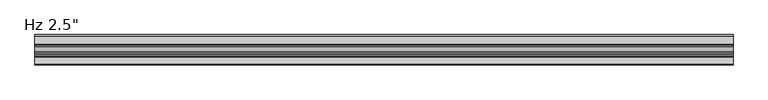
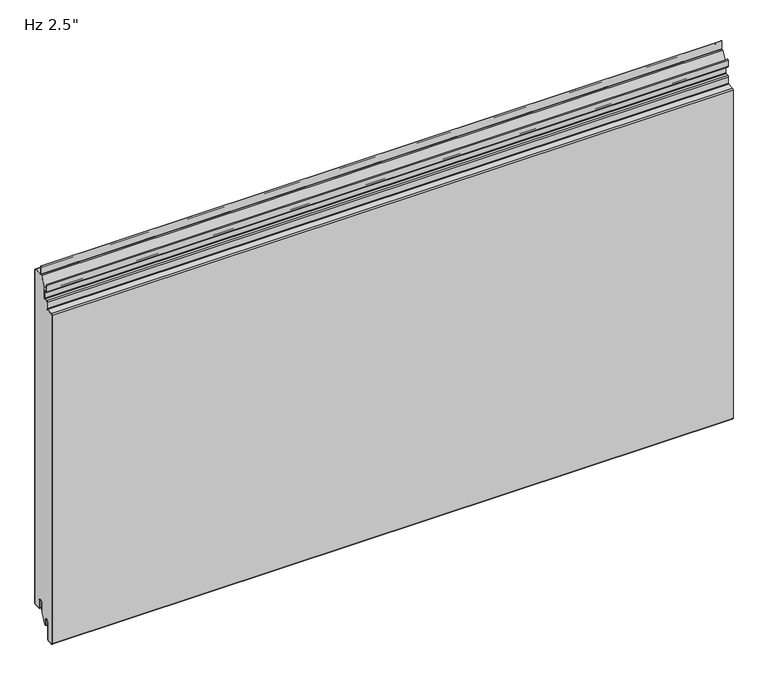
"""IFC4 building model written with IfcOpenShell, lengths in millimetres: plate geometry."""

from ifc_helpers import new_model, si_unit, point, frame, frame_2d, origin, place, context, project, spatial, polyline, circle_curve, ellipse_curve, trimmed, segment, composite_curve, outline, extrude, source, transform, mapped, element, save
from ifc_brep_helpers import plane_surface, cylinder_surface, revolved_surface, extruded_surface, advanced_brep


def plate_703a105f(model_context):
    return source(origin(), model_context, "Body", "SolidModel", [
        extrude(outline(composite_curve([segment(trimmed(circle_curve(frame_2d((-21.43125, 19.05)), 4.96875), [point((-16.4625, 19.05))], [point((-26.4, 19.05))], True, "CARTESIAN"), True, "CONTINUOUS"), segment(polyline([(-26.4, 19.05), (-26.4, -3.1323422), (-36.5326309, -23.01875), (-38.1, -23.01875), (-38.1, -13.5080174), (-38.89375, -13.5080174), (-38.6875, -11.9205174)]), True, "CONTINUOUS"), segment(trimmed(circle_curve(frame_2d((-43.65625, -11.9205174)), 4.96875), [point((-38.6875, -11.9205174))], [point((-48.625, -11.9205174))], True, "CARTESIAN"), True, "CONTINUOUS"), segment(polyline([(-48.625, -11.9205174), (-48.625, -50.1038221)]), True, "CONTINUOUS"), segment(trimmed(circle_curve(frame_2d((-50.00625, -50.1038221)), 1.38125), [point((-48.625, -50.1038221))], [point((-49.933961, -51.4831791))], False, "CARTESIAN"), True, "CONTINUOUS"), segment(polyline([(-49.933961, -51.4831791), (-61.046461, -52.0655606)]), True, "CONTINUOUS"), segment(trimmed(circle_curve(frame_2d((-61.11875, -50.6862035)), 1.38125), [point((-61.046461, -52.0655606))], [point((-62.5, -50.6862035))], False, "CARTESIAN"), True, "CONTINUOUS"), segment(polyline([(-62.5, -50.6862035), (-62.5, 693.8447607)]), True, "CONTINUOUS"), segment(trimmed(circle_curve(frame_2d((-61.11875, 693.8447607)), 1.38125), [point((-62.5, 693.8447607))], [point((-61.191039, 695.2241177))], False, "CARTESIAN"), True, "CONTINUOUS"), segment(polyline([(-61.191039, 695.2241177), (-47.4895807, 695.9421807)]), True, "CONTINUOUS"), segment(trimmed(circle_curve(frame_2d((-47.625, 698.5261347)), 2.5875), [point((-47.4895807, 695.9421807))], [point((-45.0375, 698.5261347))], True, "CARTESIAN"), True, "CONTINUOUS"), segment(polyline([(-45.0375, 698.5261347), (-45.0375, 712.6824411)]), True, "CONTINUOUS"), segment(trimmed(circle_curve(frame_2d((-43.65625, 712.6824411)), 1.38125), [point((-45.0375, 712.6824411))], [point((-43.728539, 714.0617981))], False, "CARTESIAN"), True, "CONTINUOUS"), segment(polyline([(-43.728539, 714.0617981), (-37.9645807, 714.3638744)]), True, "CONTINUOUS"), segment(trimmed(circle_curve(frame_2d((-38.1, 716.9478283)), 2.5875), [point((-37.9645807, 714.3638744))], [point((-35.5125, 716.9478283))], True, "CARTESIAN"), True, "CONTINUOUS"), segment(polyline([(-35.5125, 716.9478283), (-35.5125, 739.3892934), (-24.9057308, 760.20625), (-2.38125, 760.20625)]), True, "CONTINUOUS"), segment(trimmed(circle_curve(frame_2d((-2.38125, 758.825)), 1.38125), [point((-2.38125, 760.20625))], [point((-1.0, 758.825))], False, "CARTESIAN"), True, "CONTINUOUS"), segment(polyline([(-1.0, 758.825), (-1.0, 3.175)]), True, "CONTINUOUS"), segment(trimmed(circle_curve(frame_2d((-2.38125, 3.175)), 1.38125), [point((-1.0, 3.175))], [point((-2.38125, 1.79375))], False, "CARTESIAN"), True, "CONTINUOUS"), segment(polyline([(-2.38125, 1.79375), (-15.08125, 1.79375)]), True, "CONTINUOUS"), segment(trimmed(circle_curve(frame_2d((-15.08125, 3.175)), 1.38125), [point((-15.08125, 1.79375))], [point((-16.4625, 3.175))], False, "CARTESIAN"), True, "CONTINUOUS"), segment(polyline([(-16.4625, 3.175), (-16.4625, 19.05)]), True, "CONTINUOUS")], self_intersect=False)), frame((-730.0, 0.0, 0.0), z_axis=(1.0, 0.0, 0.0), x_axis=(0.0, 1.0, 0.0)), (0.0, 0.0, 1.0), 1460.0),
        extrude(outline(composite_curve([segment(polyline([(-25.4, 0.79375), (-26.4, 0.79375), (-26.4, 19.05)]), True, "CONTINUOUS"), segment(trimmed(circle_curve(frame_2d((-21.43125, 19.05)), 4.96875), [point((-26.4, 19.05))], [point((-16.4625, 19.05))], False, "CARTESIAN"), True, "CONTINUOUS"), segment(polyline([(-16.4625, 19.05), (-16.4625, 3.175)]), True, "CONTINUOUS"), segment(trimmed(circle_curve(frame_2d((-15.08125, 3.175)), 1.38125), [point((-16.4625, 3.175))], [point((-15.08125, 1.79375))], True, "CARTESIAN"), True, "CONTINUOUS"), segment(polyline([(-15.08125, 1.79375), (-2.38125, 1.79375)]), True, "CONTINUOUS"), segment(trimmed(circle_curve(frame_2d((-2.38125, 3.175)), 1.38125), [point((-2.38125, 1.79375))], [point((-1.0, 3.175))], True, "CARTESIAN"), True, "CONTINUOUS"), segment(polyline([(-1.0, 3.175), (-1.0, 758.825)]), True, "CONTINUOUS"), segment(trimmed(circle_curve(frame_2d((-2.38125, 758.825)), 1.38125), [point((-1.0, 758.825))], [point((-2.38125, 760.20625))], True, "CARTESIAN"), True, "CONTINUOUS"), segment(polyline([(-2.38125, 760.20625), (-19.446875, 760.20625)]), True, "CONTINUOUS"), segment(trimmed(circle_curve(frame_2d((-19.446875, 762.79375)), 2.5875), [point((-19.446875, 760.20625))], [point((-22.034375, 762.79375))], False, "CARTESIAN"), True, "CONTINUOUS"), segment(polyline([(-22.034375, 762.79375), (-22.034375, 780.25625), (-21.034375, 780.25625), (-21.034375, 762.79375)]), True, "CONTINUOUS"), segment(trimmed(circle_curve(frame_2d((-19.446875, 762.79375)), 1.5875), [point((-21.034375, 762.79375))], [point((-19.446875, 761.20625))], True, "CARTESIAN"), True, "CONTINUOUS"), segment(polyline([(-19.446875, 761.20625), (-2.38125, 761.20625)]), True, "CONTINUOUS"), segment(trimmed(circle_curve(frame_2d((-2.38125, 758.825)), 2.38125), [point((-2.38125, 761.20625))], [point((0.0, 758.825))], False, "CARTESIAN"), True, "CONTINUOUS"), segment(polyline([(0.0, 758.825), (0.0, 3.175)]), True, "CONTINUOUS"), segment(trimmed(circle_curve(frame_2d((-2.38125, 3.175)), 2.38125), [point((0.0, 3.175))], [point((-2.38125, 0.79375))], False, "CARTESIAN"), True, "CONTINUOUS"), segment(polyline([(-2.38125, 0.79375), (-15.08125, 0.79375)]), True, "CONTINUOUS"), segment(trimmed(circle_curve(frame_2d((-15.08125, 3.175)), 2.38125), [point((-15.08125, 0.79375))], [point((-17.4625, 3.175))], False, "CARTESIAN"), True, "CONTINUOUS"), segment(polyline([(-17.4625, 3.175), (-17.4625, 19.05)]), True, "CONTINUOUS"), segment(trimmed(circle_curve(frame_2d((-21.43125, 19.05)), 3.96875), [point((-17.4625, 19.05))], [point((-25.4, 19.05))], True, "CARTESIAN"), True, "CONTINUOUS"), segment(polyline([(-25.4, 19.05), (-25.4, 0.79375)]), True, "CONTINUOUS")], self_intersect=False)), frame((-730.0, 0.0, 0.0), z_axis=(1.0, 0.0, 0.0), x_axis=(0.0, 1.0, 0.0)), (0.0, 0.0, 1.0), 1460.0),
        advanced_brep(
        [(-730.0, -38.1, -23.2314549), (-730.0, -39.6875, -23.2314549), (-730.0, -39.6875, -11.9205174), (-730.0, -47.625, -11.9205174), (-730.0, -47.625, -50.1038221), (-730.0, -49.881625, -52.4818086), (-730.0, -60.994125, -53.0641901), (-730.0, -63.5, -50.6862035), (-730.0, -63.5, 693.8447607), (-730.0, -61.243375, 696.2227473), (-730.0, -47.5419167, 696.9408103), (-730.0, -46.0375, 698.5261347), (-730.0, -46.0375, 712.6824411), (-730.0, -43.780875, 715.0604276), (-730.0, -38.0169167, 715.3625039), (-730.0, -36.5125, 716.9478283), (-730.0, -36.5125, 731.8232326), (-730.0, -38.1, 733.4107326), (-730.0, -42.2671875, 733.4107326), (-730.0, -44.6484375, 735.7919826), (-730.0, -44.6484375, 750.2836032), (-730.0, -42.8546875, 750.2836032), (-730.0, -42.8546875, 740.5544826), (-730.0, -43.6484375, 740.5544826), (-730.0, -43.6484375, 735.7919826), (-730.0, -42.2671875, 734.4107326), (-730.0, -38.1, 734.4107326), (-730.0, -35.5125, 731.8232326), (-730.0, -35.5125, 716.9478283), (-730.0, -37.9645807, 714.3638744), (-730.0, -43.728539, 714.0617981), (-730.0, -45.0375, 712.6824411), (-730.0, -45.0375, 698.5261347), (-730.0, -47.4895807, 695.9421807), (-730.0, -61.191039, 695.2241177), (-730.0, -62.5, 693.8447607), (-730.0, -62.5, -50.6862035), (-730.0, -61.046461, -52.0655606), (-730.0, -49.933961, -51.4831791), (-730.0, -48.625, -50.1038221), (-730.0, -48.625, -11.9205174), (-730.0, -38.6875, -11.9205174), (-730.0, -38.89375, -13.5080174), (-730.0, -38.1, -13.5080174), (730.0, -38.1, -23.2314549), (730.0, -38.1, -13.5080174), (730.0, -38.89375, -13.5080174), (730.0, -38.6875, -11.9205174), (730.0, -48.625, -11.9205174), (730.0, -48.625, -50.1038221), (730.0, -49.933961, -51.4831791), (730.0, -61.046461, -52.0655606), (730.0, -62.5, -50.6862035), (730.0, -62.5, 693.8447607), (730.0, -61.191039, 695.2241177), (730.0, -47.4895807, 695.9421807), (730.0, -45.0375, 698.5261347), (730.0, -45.0375, 712.6824411), (730.0, -43.728539, 714.0617981), (730.0, -37.9645807, 714.3638744), (730.0, -35.5125, 716.9478283), (730.0, -35.5125, 731.8232326), (730.0, -38.1, 734.4107326), (730.0, -42.2671875, 734.4107326), (730.0, -43.6484375, 735.7919826), (730.0, -43.6484375, 740.5544826), (730.0, -42.8546875, 740.5544826), (730.0, -42.8546875, 750.2836032), (730.0, -44.6484375, 750.2836032), (730.0, -44.6484375, 735.7919826), (730.0, -42.2671875, 733.4107326), (730.0, -38.1, 733.4107326), (730.0, -36.5125, 731.8232326), (730.0, -36.5125, 716.9478283), (730.0, -38.0169167, 715.3625039), (730.0, -43.780875, 715.0604276), (730.0, -46.0375, 712.6824411), (730.0, -46.0375, 698.5261347), (730.0, -47.5419167, 696.9408103), (730.0, -61.243375, 696.2227473), (730.0, -63.5, 693.8447607), (730.0, -63.5, -50.6862035), (730.0, -60.994125, -53.0641901), (730.0, -49.881625, -52.4818086), (730.0, -47.625, -50.1038221), (730.0, -47.625, -11.9205174), (730.0, -39.6875, -11.9205174), (730.0, -39.6875, -23.2314549)],
        [
            (0, 1, circle_curve(frame((-730.0, -38.89375, -23.2314549), z_axis=(-1.0, 0.0, 0.0), x_axis=(0.0, 0.0, -1.0)), 0.79375)),
            (1, 2),
            (2, 3, circle_curve(frame((-730.0, -43.65625, -11.9205174), z_axis=(1.0, 0.0, 0.0), x_axis=(0.0, 0.0, -1.0)), 3.96875)),
            (3, 4),
            (4, 5, circle_curve(frame((-730.0, -50.00625, -50.1038221), z_axis=(-1.0, 0.0, 0.0), x_axis=(0.0, 0.0, -1.0)), 2.38125)),
            (5, 6),
            (6, 7, circle_curve(frame((-730.0, -61.11875, -50.6862035), z_axis=(-1.0, 0.0, 0.0), x_axis=(0.0, 0.0, -1.0)), 2.38125)),
            (7, 8),
            (8, 9, circle_curve(frame((-730.0, -61.11875, 693.8447607), z_axis=(-1.0, 0.0, 0.0), x_axis=(0.0, 0.0, -1.0)), 2.38125)),
            (9, 10),
            (10, 11, circle_curve(frame((-730.0, -47.625, 698.5261347), z_axis=(1.0, 0.0, 0.0), x_axis=(0.0, 0.0, -1.0)), 1.5875)),
            (11, 12),
            (12, 13, circle_curve(frame((-730.0, -43.65625, 712.6824411), z_axis=(-1.0, 0.0, 0.0), x_axis=(0.0, 0.0, -1.0)), 2.38125)),
            (13, 14),
            (14, 15, circle_curve(frame((-730.0, -38.1, 716.9478283), z_axis=(1.0, 0.0, 0.0), x_axis=(0.0, 0.0, -1.0)), 1.5875)),
            (15, 16),
            (16, 17, circle_curve(frame((-730.0, -38.1, 731.8232326), z_axis=(1.0, 0.0, 0.0), x_axis=(0.0, 0.0, -1.0)), 1.5875)),
            (17, 18),
            (18, 19, circle_curve(frame((-730.0, -42.2671875, 735.7919826), z_axis=(-1.0, 0.0, 0.0), x_axis=(0.0, 0.0, -1.0)), 2.38125)),
            (19, 20),
            (20, 21, ellipse_curve(frame((-730.0, -43.7515625, 750.2836032), z_axis=(-1.0, 0.0, 0.0), x_axis=(0.0, 1.0, 0.0)), 0.896875, 0.7852275)),
            (21, 22),
            (22, 23),
            (23, 24),
            (24, 25, circle_curve(frame((-730.0, -42.2671875, 735.7919826), z_axis=(1.0, 0.0, 0.0), x_axis=(0.0, 0.0, -1.0)), 1.38125)),
            (25, 26),
            (26, 27, circle_curve(frame((-730.0, -38.1, 731.8232326), z_axis=(-1.0, 0.0, 0.0), x_axis=(0.0, 0.0, -1.0)), 2.5875)),
            (27, 28),
            (28, 29, circle_curve(frame((-730.0, -38.1, 716.9478283), z_axis=(-1.0, 0.0, 0.0), x_axis=(0.0, 0.0, -1.0)), 2.5875)),
            (29, 30),
            (30, 31, circle_curve(frame((-730.0, -43.65625, 712.6824411), z_axis=(1.0, 0.0, 0.0), x_axis=(0.0, 0.0, -1.0)), 1.38125)),
            (31, 32),
            (32, 33, circle_curve(frame((-730.0, -47.625, 698.5261347), z_axis=(-1.0, 0.0, 0.0), x_axis=(0.0, 0.0, -1.0)), 2.5875)),
            (33, 34),
            (34, 35, circle_curve(frame((-730.0, -61.11875, 693.8447607), z_axis=(1.0, 0.0, 0.0), x_axis=(0.0, 0.0, -1.0)), 1.38125)),
            (35, 36),
            (36, 37, circle_curve(frame((-730.0, -61.11875, -50.6862035), z_axis=(1.0, 0.0, 0.0), x_axis=(0.0, 0.0, -1.0)), 1.38125)),
            (37, 38),
            (38, 39, circle_curve(frame((-730.0, -50.00625, -50.1038221), z_axis=(1.0, 0.0, 0.0), x_axis=(0.0, 0.0, -1.0)), 1.38125)),
            (39, 40),
            (40, 41, circle_curve(frame((-730.0, -43.65625, -11.9205174), z_axis=(-1.0, 0.0, 0.0), x_axis=(0.0, 0.0, -1.0)), 4.96875)),
            (41, 42),
            (42, 43),
            (43, 0),
            (44, 45),
            (45, 46),
            (46, 47),
            (47, 48, circle_curve(frame((730.0, -43.65625, -11.9205174), z_axis=(1.0, 0.0, 0.0), x_axis=(0.0, 0.0, -1.0)), 4.96875)),
            (48, 49),
            (49, 50, circle_curve(frame((730.0, -50.00625, -50.1038221), z_axis=(-1.0, 0.0, 0.0), x_axis=(0.0, 0.0, -1.0)), 1.38125)),
            (50, 51),
            (51, 52, circle_curve(frame((730.0, -61.11875, -50.6862035), z_axis=(-1.0, 0.0, 0.0), x_axis=(0.0, 0.0, -1.0)), 1.38125)),
            (52, 53),
            (53, 54, circle_curve(frame((730.0, -61.11875, 693.8447607), z_axis=(-1.0, 0.0, 0.0), x_axis=(0.0, 0.0, -1.0)), 1.38125)),
            (54, 55),
            (55, 56, circle_curve(frame((730.0, -47.625, 698.5261347), z_axis=(1.0, 0.0, 0.0), x_axis=(0.0, 0.0, -1.0)), 2.5875)),
            (56, 57),
            (57, 58, circle_curve(frame((730.0, -43.65625, 712.6824411), z_axis=(-1.0, 0.0, 0.0), x_axis=(0.0, 0.0, -1.0)), 1.38125)),
            (58, 59),
            (59, 60, circle_curve(frame((730.0, -38.1, 716.9478283), z_axis=(1.0, 0.0, 0.0), x_axis=(0.0, 0.0, -1.0)), 2.5875)),
            (60, 61),
            (61, 62, circle_curve(frame((730.0, -38.1, 731.8232326), z_axis=(1.0, 0.0, 0.0), x_axis=(0.0, 0.0, -1.0)), 2.5875)),
            (62, 63),
            (63, 64, circle_curve(frame((730.0, -42.2671875, 735.7919826), z_axis=(-1.0, 0.0, 0.0), x_axis=(0.0, 0.0, -1.0)), 1.38125)),
            (64, 65),
            (65, 66),
            (66, 67),
            (67, 68, ellipse_curve(frame((730.0, -43.7515625, 750.2836032), z_axis=(1.0, 0.0, 0.0), x_axis=(0.0, 1.0, 0.0)), 0.896875, 0.7852275)),
            (68, 69),
            (69, 70, circle_curve(frame((730.0, -42.2671875, 735.7919826), z_axis=(1.0, 0.0, 0.0), x_axis=(0.0, 0.0, -1.0)), 2.38125)),
            (70, 71),
            (71, 72, circle_curve(frame((730.0, -38.1, 731.8232326), z_axis=(-1.0, 0.0, 0.0), x_axis=(0.0, 0.0, -1.0)), 1.5875)),
            (72, 73),
            (73, 74, circle_curve(frame((730.0, -38.1, 716.9478283), z_axis=(-1.0, 0.0, 0.0), x_axis=(0.0, 0.0, -1.0)), 1.5875)),
            (74, 75),
            (75, 76, circle_curve(frame((730.0, -43.65625, 712.6824411), z_axis=(1.0, 0.0, 0.0), x_axis=(0.0, 0.0, -1.0)), 2.38125)),
            (76, 77),
            (77, 78, circle_curve(frame((730.0, -47.625, 698.5261347), z_axis=(-1.0, 0.0, 0.0), x_axis=(0.0, 0.0, -1.0)), 1.5875)),
            (78, 79),
            (79, 80, circle_curve(frame((730.0, -61.11875, 693.8447607), z_axis=(1.0, 0.0, 0.0), x_axis=(0.0, 0.0, -1.0)), 2.38125)),
            (80, 81),
            (81, 82, circle_curve(frame((730.0, -61.11875, -50.6862035), z_axis=(1.0, 0.0, 0.0), x_axis=(0.0, 0.0, -1.0)), 2.38125)),
            (82, 83),
            (83, 84, circle_curve(frame((730.0, -50.00625, -50.1038221), z_axis=(1.0, 0.0, 0.0), x_axis=(0.0, 0.0, -1.0)), 2.38125)),
            (84, 85),
            (85, 86, circle_curve(frame((730.0, -43.65625, -11.9205174), z_axis=(-1.0, 0.0, 0.0), x_axis=(0.0, 0.0, -1.0)), 3.96875)),
            (86, 87),
            (87, 44, circle_curve(frame((730.0, -38.89375, -23.2314549), z_axis=(1.0, 0.0, 0.0), x_axis=(0.0, 0.0, -1.0)), 0.79375)),
            (36, 52),
            (51, 37),
            (50, 38),
            (49, 39),
            (48, 40),
            (47, 41),
            (42, 46),
            (45, 43),
            (22, 66),
            (65, 23),
            (21, 67),
            (20, 68),
            (34, 54),
            (53, 35),
            (32, 56),
            (55, 33),
            (30, 58),
            (57, 31),
            (28, 60),
            (59, 29),
            (24, 64),
            (63, 25),
            (26, 62),
            (61, 27),
            (19, 69),
            (17, 71),
            (70, 18),
            (15, 73),
            (72, 16),
            (13, 75),
            (74, 14),
            (11, 77),
            (76, 12),
            (9, 79),
            (78, 10),
            (7, 81),
            (80, 8),
            (5, 83),
            (82, 6),
            (3, 85),
            (84, 4),
            (1, 87),
            (86, 2),
            (44, 0),
        ],
        [
            plane_surface(frame((-730.0, -63.5, 381.0), z_axis=(-1.0, 0.0, 0.0), x_axis=(0.0, -1.0, 0.0))),
            plane_surface(frame((730.0, -63.5, 381.0), z_axis=(1.0, 0.0, 0.0), x_axis=(0.0, -1.0, 0.0))),
            revolved_surface(polyline([(730.0, -61.11875, -52.0674535), (-730.0, -61.11875, -52.0674535)]), (-730.0, -61.11875, -50.6862035), (1.0, 0.0, 0.0)),
            plane_surface(frame((-730.0, -49.933961, -51.4831791), z_axis=(0.0, -0.05233595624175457, 0.9986295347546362), x_axis=(1.0, 0.0, 0.0))),
            revolved_surface(polyline([(730.0, -50.00625, -51.485072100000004), (-730.0, -50.00625, -51.485072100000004)]), (-730.0, -50.00625, -50.1038221), (1.0, 0.0, 0.0)),
            plane_surface(frame((-730.0, -48.625, -11.9205174), z_axis=(0.0, -1.0, 0.0), x_axis=(1.0, 0.0, 0.0))),
            cylinder_surface(frame((-730.0, -43.65625, -11.9205174), z_axis=(-1.0, 0.0, 0.0), x_axis=(0.0, 0.0, -1.0)), 4.96875),
            plane_surface(frame((-730.0, -38.1, -13.5080174), z_axis=(0.0, 0.0, 1.0), x_axis=(1.0, 0.0, 0.0))),
            plane_surface(frame((-730.0, -38.89375, -13.5080174), z_axis=(0.0, 0.9916655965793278, -0.12883844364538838), x_axis=(1.0, 0.0, 0.0))),
            plane_surface(frame((-730.0, -43.6484375, 740.5544826), z_axis=(0.0, 0.0, -1.0), x_axis=(1.0, 0.0, 0.0))),
            plane_surface(frame((-730.0, -42.8546875, 740.5544826), z_axis=(0.0, 1.0, 0.0), x_axis=(1.0, 0.0, 0.0))),
            extruded_surface(trimmed(ellipse_curve(frame((-730.0, -43.7515625, 750.2836032), z_axis=(1.0, 0.0, 0.0), x_axis=(0.0, 1.0, 0.0)), 0.896875, 0.7852275), [point((-730.0, -42.8546875, 750.2836032))], [point((-730.0, -44.6484375, 750.2836032))], True, "CARTESIAN"), (1460.0, 0.0, 0.0), 1460.0),
            revolved_surface(polyline([(730.0, -61.11875, 692.4635107), (-730.0, -61.11875, 692.4635107)]), (-730.0, -61.11875, 693.8447607), (1.0, 0.0, 0.0)),
            cylinder_surface(frame((-730.0, -47.625, 698.5261347), z_axis=(-1.0, 0.0, 0.0), x_axis=(0.0, 0.0, -1.0)), 2.5875),
            plane_surface(frame((-730.0, -61.191039, 695.2241177), z_axis=(0.0, 0.05233595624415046, -0.9986295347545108), x_axis=(1.0, 0.0, 0.0))),
            plane_surface(frame((-730.0, -62.5, -50.6862035), z_axis=(0.0, 1.0, 0.0), x_axis=(1.0, 0.0, 0.0))),
            revolved_surface(polyline([(730.0, -43.65625, 711.3011911), (-730.0, -43.65625, 711.3011911)]), (-730.0, -43.65625, 712.6824411), (1.0, 0.0, 0.0)),
            cylinder_surface(frame((-730.0, -38.1, 716.9478283), z_axis=(-1.0, 0.0, 0.0), x_axis=(0.0, 0.0, -1.0)), 2.5875),
            plane_surface(frame((-730.0, -43.728539, 714.0617981), z_axis=(0.0, 0.052335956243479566, -0.9986295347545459), x_axis=(1.0, 0.0, 0.0))),
            plane_surface(frame((-730.0, -45.0375, 698.5261347), z_axis=(0.0, 1.0, 0.0), x_axis=(1.0, 0.0, 0.0))),
            revolved_surface(polyline([(730.0, -42.2671875, 734.4107326), (-730.0, -42.2671875, 734.4107326)]), (-730.0, -42.2671875, 735.7919826), (1.0, 0.0, 0.0)),
            cylinder_surface(frame((-730.0, -38.1, 731.8232326), z_axis=(-1.0, 0.0, 0.0), x_axis=(0.0, 0.0, -1.0)), 2.5875),
            plane_surface(frame((-730.0, -38.1, 734.4107326), z_axis=(0.0, 0.0, 1.0), x_axis=(1.0, 0.0, 0.0))),
            plane_surface(frame((-730.0, -43.6484375, 735.7919826), z_axis=(0.0, 1.0, 0.0), x_axis=(1.0, 0.0, 0.0))),
            plane_surface(frame((-730.0, -44.6484375, 750.2836032), z_axis=(0.0, -1.0, 0.0), x_axis=(1.0, 0.0, 0.0))),
            plane_surface(frame((-730.0, -42.2671875, 733.4107326), z_axis=(0.0, 0.0, -1.0), x_axis=(1.0, 0.0, 0.0))),
            cylinder_surface(frame((-730.0, -42.2671875, 735.7919826), z_axis=(-1.0, 0.0, 0.0), x_axis=(0.0, 0.0, -1.0)), 2.38125),
            plane_surface(frame((-730.0, -35.5125, 716.9478283), z_axis=(0.0, 1.0, 0.0), x_axis=(1.0, 0.0, 0.0))),
            plane_surface(frame((-730.0, -36.5125, 731.8232326), z_axis=(0.0, -1.0, 0.0), x_axis=(1.0, 0.0, 0.0))),
            plane_surface(frame((-730.0, -38.0169167, 715.3625039), z_axis=(0.0, -0.05233595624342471, 0.9986295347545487), x_axis=(1.0, 0.0, 0.0))),
            revolved_surface(polyline([(730.0, -38.1, 715.3603283), (-730.0, -38.1, 715.3603283)]), (-730.0, -38.1, 716.9478283), (1.0, 0.0, 0.0)),
            revolved_surface(polyline([(730.0, -38.1, 730.2357326), (-730.0, -38.1, 730.2357326)]), (-730.0, -38.1, 731.8232326), (1.0, 0.0, 0.0)),
            plane_surface(frame((-730.0, -46.0375, 712.6824411), z_axis=(0.0, -1.0, 0.0), x_axis=(1.0, 0.0, 0.0))),
            plane_surface(frame((-730.0, -47.5419167, 696.9408103), z_axis=(0.0, -0.0523359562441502, 0.9986295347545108), x_axis=(1.0, 0.0, 0.0))),
            revolved_surface(polyline([(730.0, -47.625, 696.9386347), (-730.0, -47.625, 696.9386347)]), (-730.0, -47.625, 698.5261347), (1.0, 0.0, 0.0)),
            cylinder_surface(frame((-730.0, -43.65625, 712.6824411), z_axis=(-1.0, 0.0, 0.0), x_axis=(0.0, 0.0, -1.0)), 2.38125),
            plane_surface(frame((-730.0, -63.5, 693.8447607), z_axis=(0.0, -1.0, 0.0), x_axis=(1.0, 0.0, 0.0))),
            plane_surface(frame((-730.0, -60.994125, -53.0641901), z_axis=(0.0, 0.05233595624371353, -0.9986295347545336), x_axis=(1.0, 0.0, 0.0))),
            cylinder_surface(frame((-730.0, -61.11875, -50.6862035), z_axis=(-1.0, 0.0, 0.0), x_axis=(0.0, 0.0, -1.0)), 2.38125),
            cylinder_surface(frame((-730.0, -61.11875, 693.8447607), z_axis=(-1.0, 0.0, 0.0), x_axis=(0.0, 0.0, -1.0)), 2.38125),
            plane_surface(frame((-730.0, -47.625, -50.1038221), z_axis=(0.0, 1.0, 0.0), x_axis=(1.0, 0.0, 0.0))),
            plane_surface(frame((-730.0, -39.6875, -11.9205174), z_axis=(0.0, -1.0, 0.0), x_axis=(1.0, 0.0, 0.0))),
            revolved_surface(polyline([(730.0, -43.65625, -15.8892674), (-730.0, -43.65625, -15.8892674)]), (-730.0, -43.65625, -11.9205174), (1.0, 0.0, 0.0)),
            cylinder_surface(frame((-730.0, -50.00625, -50.1038221), z_axis=(-1.0, 0.0, 0.0), x_axis=(0.0, 0.0, -1.0)), 2.38125),
            plane_surface(frame((-730.0, -38.1, -23.2314549), z_axis=(0.0, 1.0, 0.0), x_axis=(1.0, 0.0, 0.0))),
            cylinder_surface(frame((-730.0, -38.89375, -23.2314549), z_axis=(-1.0, 0.0, 0.0), x_axis=(0.0, 0.0, -1.0)), 0.79375),
        ],
        [
            (0, [[1, 2, 3, 4, 5, 6, 7, 8, 9, 10, 11, 12, 13, 14, 15, 16, 17, 18, 19, 20, 21, 22, 23, 24, 25, 26, 27, 28, 29, 30, 31, 32, 33, 34, 35, 36, 37, 38, 39, 40, 41, 42, 43, 44]]),
            (1, [[45, 46, 47, 48, 49, 50, 51, 52, 53, 54, 55, 56, 57, 58, 59, 60, 61, 62, 63, 64, 65, 66, 67, 68, 69, 70, 71, 72, 73, 74, 75, 76, 77, 78, 79, 80, 81, 82, 83, 84, 85, 86, 87, 88]]),
            (2, [[89, -52, 90, -37]]),
            (3, [[-90, -51, 91, -38]]),
            (4, [[-91, -50, 92, -39]]),
            (5, [[-92, -49, 93, -40]]),
            (6, [[-93, -48, 94, -41]]),
            (7, [[95, -46, 96, -43]]),
            (8, [[-94, -47, -95, -42]]),
            (9, [[97, -66, 98, -23]]),
            (10, [[99, -67, -97, -22]]),
            (11, [[100, -68, -99, -21]]),
            (12, [[101, -54, 102, -35]]),
            (13, [[103, -56, 104, -33]]),
            (14, [[-104, -55, -101, -34]]),
            (15, [[-102, -53, -89, -36]]),
            (16, [[105, -58, 106, -31]]),
            (17, [[107, -60, 108, -29]]),
            (18, [[-108, -59, -105, -30]]),
            (19, [[-106, -57, -103, -32]]),
            (20, [[109, -64, 110, -25]]),
            (21, [[111, -62, 112, -27]]),
            (22, [[-110, -63, -111, -26]]),
            (23, [[-98, -65, -109, -24]]),
            (24, [[113, -69, -100, -20]]),
            (25, [[114, -71, 115, -18]]),
            (26, [[-115, -70, -113, -19]]),
            (27, [[-112, -61, -107, -28]]),
            (28, [[116, -73, 117, -16]]),
            (29, [[118, -75, 119, -14]]),
            (30, [[-119, -74, -116, -15]]),
            (31, [[-117, -72, -114, -17]]),
            (32, [[120, -77, 121, -12]]),
            (33, [[122, -79, 123, -10]]),
            (34, [[-123, -78, -120, -11]]),
            (35, [[-121, -76, -118, -13]]),
            (36, [[124, -81, 125, -8]]),
            (37, [[126, -83, 127, -6]]),
            (38, [[-127, -82, -124, -7]]),
            (39, [[-125, -80, -122, -9]]),
            (40, [[128, -85, 129, -4]]),
            (41, [[130, -87, 131, -2]]),
            (42, [[-131, -86, -128, -3]]),
            (43, [[-129, -84, -126, -5]]),
            (44, [[-96, -45, 132, -44]]),
            (45, [[-132, -88, -130, -1]]),
        ],
    ),
    ])


if __name__ == "__main__":
    model = new_model("IFC4")
    model_context = context("Model", 3, world=origin())
    ifc_project = project(units=[si_unit("LENGTHUNIT", "METRE", prefix="MILLI")], contexts=[model_context])
    site = spatial("IfcSite", under=ifc_project)
    building = spatial("IfcBuilding", under=site)
    placement = place(None, origin())
    plate_shape = plate_703a105f(model_context)
    element("IfcPlate", 1, ObjectType="KIP-30-DWHR-R19-CP-Hz-F : Hz 2.5\"", at=placement, inside=building, context=model_context, shape_type="MappedRepresentation", body=[
        mapped(plate_shape, transform((0.0, 0.0, 0.0), x_axis=(1.0, 0.0, 0.0), y_axis=(0.0, 1.0, 0.0), z_axis=(0.0, 0.0, 1.0))),
    ])
    save(model, "model.ifc")
